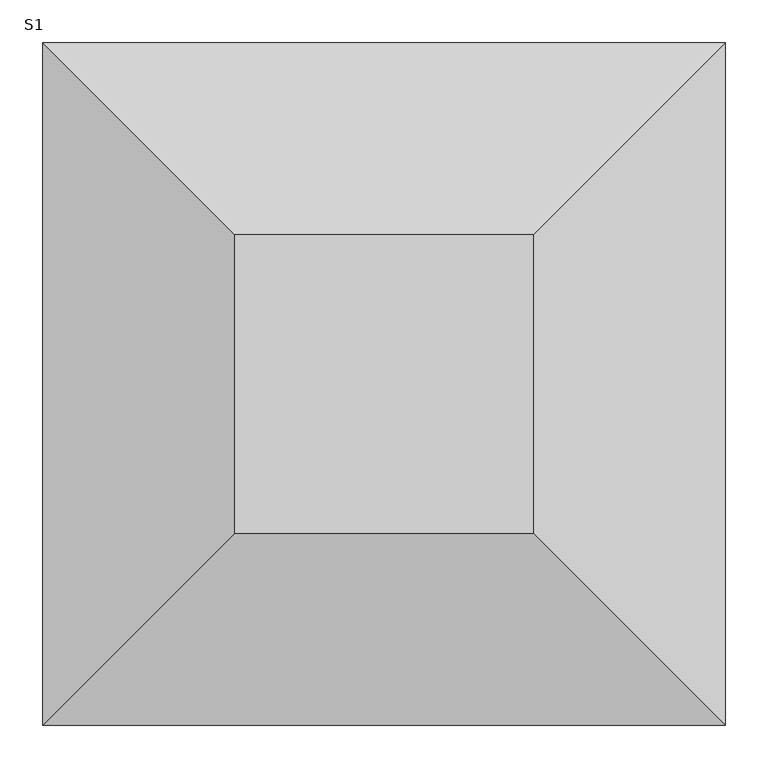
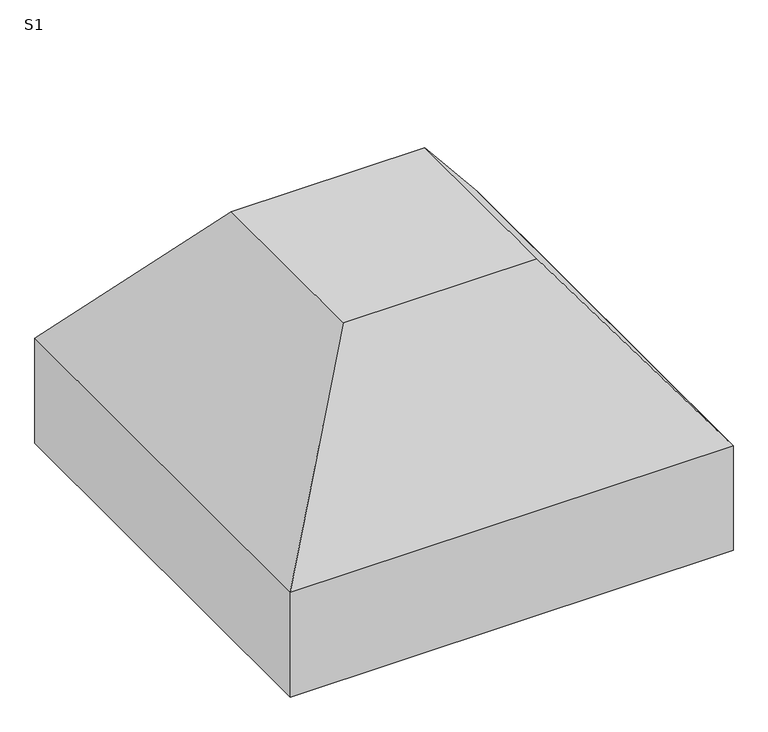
"""IFC4 building model written with IfcOpenShell, lengths in millimetres: fastener geometry, TQS - Sapata : S1."""

from ifc_helpers import new_model, si_unit, frame, origin, place, context, project, spatial, polyline, outline, extrude, faceted_brep, source, transform, mapped, element, save


def s1_263c41ab(model_context):
    return source(origin(), model_context, "Body", "SolidModel", [
        faceted_brep([(-25.0, -25.0, 0.0), (-375.0, -25.0, 0.0), (-375.0, -375.0, 0.0), (-25.0, -375.0, 0.0), (200.0, 200.0, -300.0), (200.0, -600.0, -300.0), (-600.0, -600.0, -300.0), (-600.0, 200.0, -300.0)], [[[0, 1, 2, 3]], [[4, 5, 6, 7]], [[4, 7, 1, 0]], [[7, 6, 2, 1]], [[6, 5, 3, 2]], [[5, 4, 0, 3]]]),
        extrude(outline(polyline([(200.0, 200.0), (200.0, -600.0), (-600.0, -600.0), (-600.0, 200.0), (200.0, 200.0)])), frame((0.0, 0.0, -500.0), z_axis=(0.0, 0.0, 1.0), x_axis=(1.0, 0.0, 0.0)), (0.0, 0.0, 1.0), 200.0),
    ])


if __name__ == "__main__":
    model = new_model("IFC4")
    model_context = context("Model", 3, world=origin())
    ifc_project = project(units=[si_unit("LENGTHUNIT", "METRE", prefix="MILLI")], contexts=[model_context])
    site = spatial("IfcSite", under=ifc_project)
    building = spatial("IfcBuilding", under=site)
    placement = place(None, origin())
    s1_shape = s1_263c41ab(model_context)
    element("IfcFastener", 1, ObjectType="TQS - Sapata : S1", at=placement, inside=building, context=model_context, shape_type="MappedRepresentation", body=[
        mapped(s1_shape, transform((0.0, 0.0, 0.0), x_axis=(1.0, 0.0, 0.0), y_axis=(0.0, 1.0, 0.0), z_axis=(0.0, 0.0, 1.0))),
    ])
    save(model, "model.ifc")
